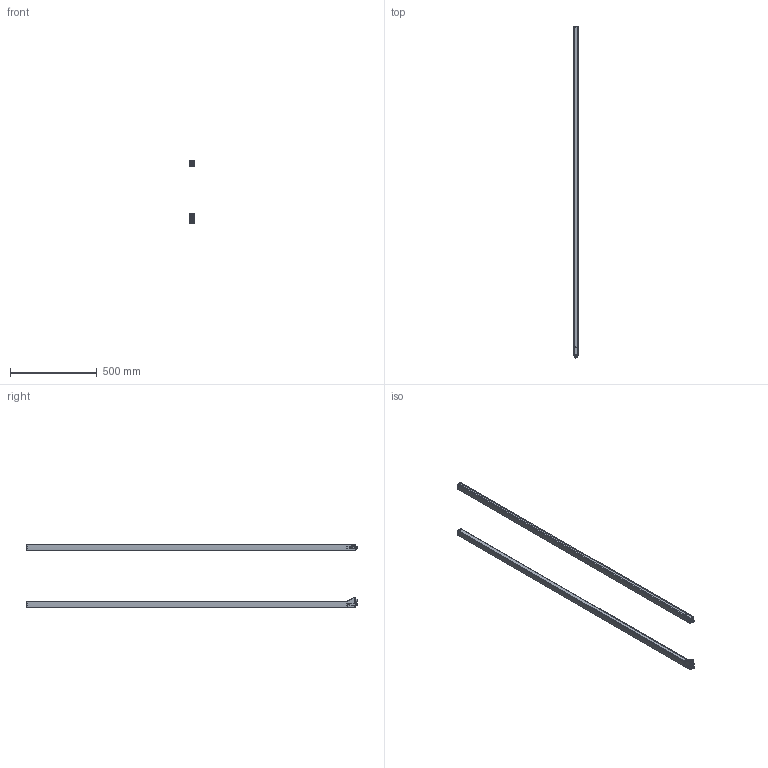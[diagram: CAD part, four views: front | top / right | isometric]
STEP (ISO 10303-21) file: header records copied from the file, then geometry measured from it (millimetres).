
FILE_DESCRIPTION(/* description */ (''),/* implementation_level */ '2;1');
FILE_NAME(/* name */ '3D_CML_700_1840_A.stp',/* time_stamp */ '2013-03-07T14:21:33+01:00',/* author */ (''),/* organization */ (''),/* preprocessor_version */ 'ST-DEVELOPER v11',/* originating_system */ 'SIEMENS UGS NX 6.0',/* authorisation */ '');
FILE_SCHEMA (('AUTOMOTIVE_DESIGN { 1 0 10303 214 1 1 1 1 }'));
Length unit declared in the file: millimetre
Products named in the file (10): M12-X_A; 002491_00.0; 001890_B; 002490_00.0; 002486_00.0; 002485_00.0; 002502_00.0_MODEL; 002492_00.1; 002484_00.1_MODEL; 002489_20.0
Assembly tree (10 placements, depth 4):
  002489_20.0
    002484_00.1_MODEL
      002485_00.0
      002486_00.0
      002490_00.0
      001890_B
    002492_00.1
      002485_00.0
      002491_00.0
      002502_00.0_MODEL
        M12-X_A
Bounding box: 29.38 x 1915.3 x 361.28 mm (x, y, z)
Volume: 3315600.3 mm3; surface area: 609309.3 mm2
Topology: 9 solids, 16 shells, 3444 faces, 9278 edges, 5905 vertices
Faces by surface type: plane 1719, cylinder 765, bspline 368, cone 197, torus 148, revolution 121, extrusion 81, sphere 45
Full cylindrical faces by diameter (mm): 0.4 x1, 0.75 x1, 0.85 x1, 1 x11, 1.25 x7, 1.4 x1, 2 x4, 2.5 x1, 2.6 x13, 3.2 x4, 3.3 x1, 3.5 x4, 4 x7, 4.2 x1, 6 x2, 6.7 x4, 7 x5, 8 x1, 8.6 x2, 9.3 x2, 10 x1, 10.11 x1, 12 x2, 13.98 x1, 15.6 x1, 18 x2
Entity records: 158380 total; most frequent: CARTESIAN_POINT 75242, ORIENTED_EDGE 17632, DIRECTION 15738, EDGE_CURVE 8816, VERTEX_POINT 5717, AXIS2_PLACEMENT_3D 5309, VECTOR 4999, LINE 4918
